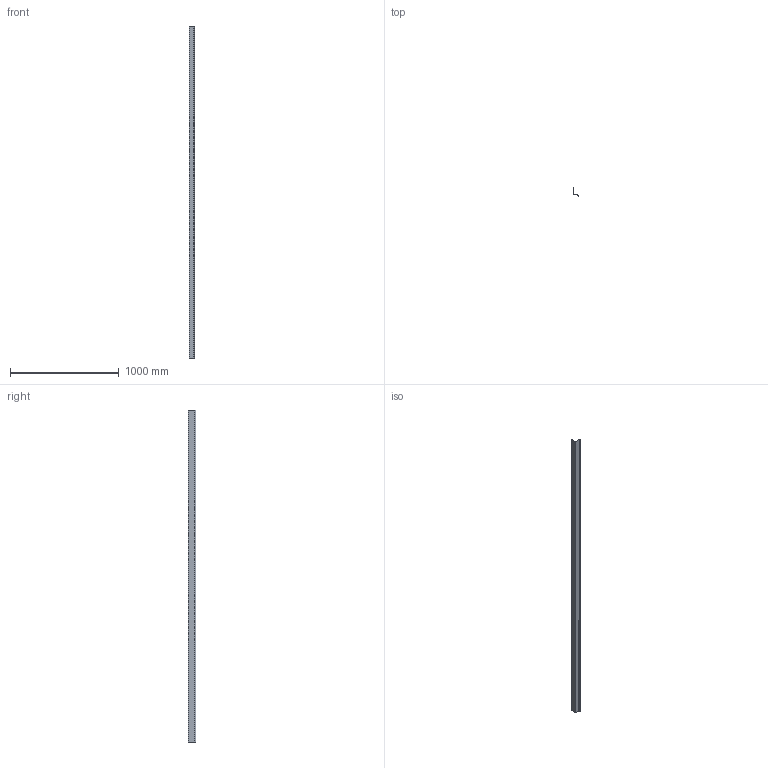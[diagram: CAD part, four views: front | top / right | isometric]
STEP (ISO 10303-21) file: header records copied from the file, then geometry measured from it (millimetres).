
FILE_DESCRIPTION(/* description */ (''),/* implementation_level */ '2;1');
FILE_NAME(/* name */ 'M51J.stp',/* time_stamp */ '2025-02-27T16:43:48-05:00',/* author */ ('samuel.gauthier'),/* organization */ (''),/* preprocessor_version */ 'ST-DEVELOPER v20',/* originating_system */ 'Autodesk Inventor 2025',/* authorisation */ '');
FILE_SCHEMA (('AUTOMOTIVE_DESIGN { 1 0 10303 214 3 1 1 }'));
Length unit declared in the file: inch
Products named in the file (1): M51J
Bounding box: 54 x 72.24 x 3048 mm (x, y, z)
Volume: 202903.6 mm3; surface area: 802062.9 mm2
Topology: 1 solids, 1 shells, 18 faces, 48 edges, 32 vertices
Faces by surface type: plane 12, cylinder 6
Entity records: 609 total; most frequent: CARTESIAN_POINT 99, DIRECTION 98, ORIENTED_EDGE 96, EDGE_CURVE 48, LINE 36, VECTOR 36, VERTEX_POINT 32, AXIS2_PLACEMENT_3D 31
